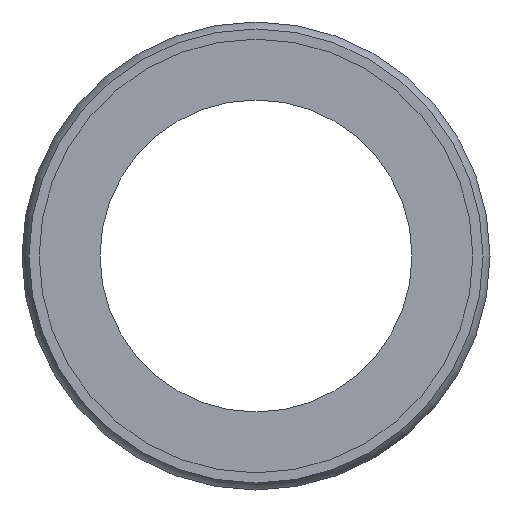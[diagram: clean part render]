
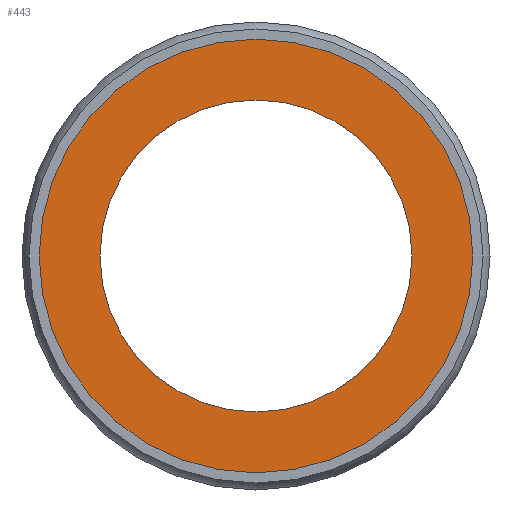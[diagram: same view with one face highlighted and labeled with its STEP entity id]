
A CAD part, left-side view. The second image highlights one B-rep face of the part: STEP entity #443.
In plain terms, the highlighted planar face has unit normal (-1, 0, 0).
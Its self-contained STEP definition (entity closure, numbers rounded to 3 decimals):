
#416=CARTESIAN_POINT('',(0.1,0.0,17.925));
#417=DIRECTION('',(-1.0,0.0,0.0));
#418=DIRECTION('',(0.0,0.0,1.0));
#419=AXIS2_PLACEMENT_3D('',#416,#417,#418);
#420=PLANE('',#419);
#421=CARTESIAN_POINT('',(0.1,0.0,20.85));
#422=VERTEX_POINT('',#421);
#423=CARTESIAN_POINT('',(0.1,0.0,0.));
#424=DIRECTION('',(1.0,0.0,0.0));
#425=DIRECTION('',(0.0,0.0,1.0));
#426=AXIS2_PLACEMENT_3D('',#423,#424,#425);
#427=CIRCLE('',#426,20.85);
#428=EDGE_CURVE('',#422,#422,#427,.T.);
#429=ORIENTED_EDGE('',*,*,#428,.F.);
#430=EDGE_LOOP('',(#429));
#431=FACE_OUTER_BOUND('',#430,.T.);
#432=CARTESIAN_POINT('',(0.1,0.0,15.));
#433=VERTEX_POINT('',#432);
#434=CARTESIAN_POINT('',(0.1,0.0,0.));
#435=DIRECTION('',(-1.0,0.0,0.0));
#436=DIRECTION('',(0.0,0.0,1.0));
#437=AXIS2_PLACEMENT_3D('',#434,#435,#436);
#438=CIRCLE('',#437,15.);
#439=EDGE_CURVE('',#433,#433,#438,.T.);
#440=ORIENTED_EDGE('',*,*,#439,.F.);
#441=EDGE_LOOP('',(#440));
#442=FACE_BOUND('',#441,.T.);
#443=ADVANCED_FACE('',(#431,#442),#420,.T.);
